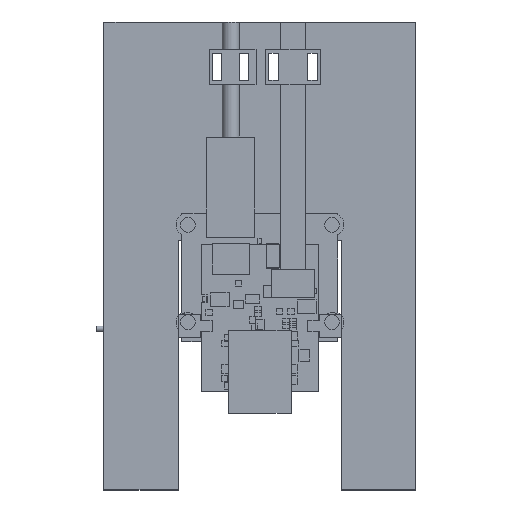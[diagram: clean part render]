
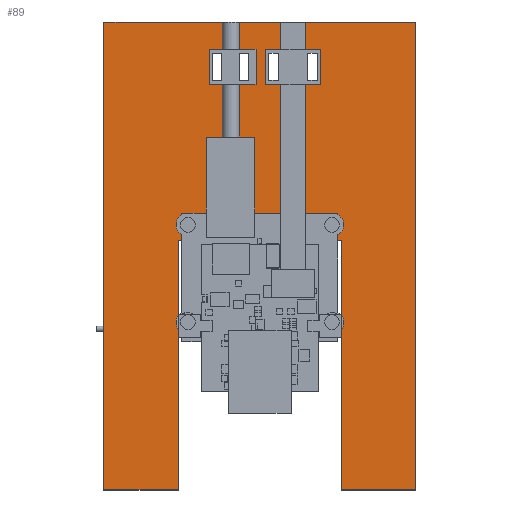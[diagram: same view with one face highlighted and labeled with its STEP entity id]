
A CAD part, top view. The second image highlights one B-rep face of the part: STEP entity #89.
In plain terms, the highlighted planar face has unit normal (0, 0, 1).
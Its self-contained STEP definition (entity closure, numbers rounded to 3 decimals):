
#21 = EDGE_CURVE('',#22,#24,#26,.T.);
#22 = VERTEX_POINT('',#23);
#23 = CARTESIAN_POINT('',(0.,0.,3.));
#24 = VERTEX_POINT('',#25);
#25 = CARTESIAN_POINT('',(0.,120.,3.));
#26 = LINE('',#27,#28);
#27 = CARTESIAN_POINT('',(0.,0.,3.));
#28 = VECTOR('',#29,1.);
#29 = DIRECTION('',(0.,1.,0.));
#89 = ADVANCED_FACE('',(#90,#147,#158,#169,#267),#365,.T.);
#90 = FACE_BOUND('',#91,.T.);
#91 = EDGE_LOOP('',(#92,#100,#101,#109,#117,#125,#133,#141));
#92 = ORIENTED_EDGE('',*,*,#93,.F.);
#93 = EDGE_CURVE('',#24,#94,#96,.T.);
#94 = VERTEX_POINT('',#95);
#95 = CARTESIAN_POINT('',(80.,120.,3.));
#96 = LINE('',#97,#98);
#97 = CARTESIAN_POINT('',(0.,120.,3.));
#98 = VECTOR('',#99,1.);
#99 = DIRECTION('',(1.,0.,0.));
#100 = ORIENTED_EDGE('',*,*,#21,.F.);
#101 = ORIENTED_EDGE('',*,*,#102,.T.);
#102 = EDGE_CURVE('',#22,#103,#105,.T.);
#103 = VERTEX_POINT('',#104);
#104 = CARTESIAN_POINT('',(19.,0.,3.));
#105 = LINE('',#106,#107);
#106 = CARTESIAN_POINT('',(0.,0.,3.));
#107 = VECTOR('',#108,1.);
#108 = DIRECTION('',(1.,0.,0.));
#109 = ORIENTED_EDGE('',*,*,#110,.T.);
#110 = EDGE_CURVE('',#103,#111,#113,.T.);
#111 = VERTEX_POINT('',#112);
#112 = CARTESIAN_POINT('',(19.,64.,3.));
#113 = LINE('',#114,#115);
#114 = CARTESIAN_POINT('',(19.,0.,3.));
#115 = VECTOR('',#116,1.);
#116 = DIRECTION('',(0.,1.,0.));
#117 = ORIENTED_EDGE('',*,*,#118,.F.);
#118 = EDGE_CURVE('',#119,#111,#121,.T.);
#119 = VERTEX_POINT('',#120);
#120 = CARTESIAN_POINT('',(61.,64.,3.));
#121 = LINE('',#122,#123);
#122 = CARTESIAN_POINT('',(9.5,64.,3.));
#123 = VECTOR('',#124,1.);
#124 = DIRECTION('',(-1.,0.,0.));
#125 = ORIENTED_EDGE('',*,*,#126,.F.);
#126 = EDGE_CURVE('',#127,#119,#129,.T.);
#127 = VERTEX_POINT('',#128);
#128 = CARTESIAN_POINT('',(61.,0.,3.));
#129 = LINE('',#130,#131);
#130 = CARTESIAN_POINT('',(61.,0.,3.));
#131 = VECTOR('',#132,1.);
#132 = DIRECTION('',(0.,1.,0.));
#133 = ORIENTED_EDGE('',*,*,#134,.T.);
#134 = EDGE_CURVE('',#127,#135,#137,.T.);
#135 = VERTEX_POINT('',#136);
#136 = CARTESIAN_POINT('',(80.,0.,3.));
#137 = LINE('',#138,#139);
#138 = CARTESIAN_POINT('',(0.,0.,3.));
#139 = VECTOR('',#140,1.);
#140 = DIRECTION('',(1.,0.,0.));
#141 = ORIENTED_EDGE('',*,*,#142,.T.);
#142 = EDGE_CURVE('',#135,#94,#143,.T.);
#143 = LINE('',#144,#145);
#144 = CARTESIAN_POINT('',(80.,0.,3.));
#145 = VECTOR('',#146,1.);
#146 = DIRECTION('',(0.,1.,0.));
#147 = FACE_BOUND('',#148,.T.);
#148 = EDGE_LOOP('',(#149));
#149 = ORIENTED_EDGE('',*,*,#150,.F.);
#150 = EDGE_CURVE('',#151,#151,#153,.T.);
#151 = VERTEX_POINT('',#152);
#152 = CARTESIAN_POINT('',(22.65,68.,3.));
#153 = CIRCLE('',#154,1.15);
#154 = AXIS2_PLACEMENT_3D('',#155,#156,#157);
#155 = CARTESIAN_POINT('',(21.5,68.,3.));
#156 = DIRECTION('',(0.,0.,1.));
#157 = DIRECTION('',(1.,0.,0.));
#158 = FACE_BOUND('',#159,.T.);
#159 = EDGE_LOOP('',(#160));
#160 = ORIENTED_EDGE('',*,*,#161,.F.);
#161 = EDGE_CURVE('',#162,#162,#164,.T.);
#162 = VERTEX_POINT('',#163);
#163 = CARTESIAN_POINT('',(59.65,68.,3.));
#164 = CIRCLE('',#165,1.15);
#165 = AXIS2_PLACEMENT_3D('',#166,#167,#168);
#166 = CARTESIAN_POINT('',(58.5,68.,3.));
#167 = DIRECTION('',(0.,0.,1.));
#168 = DIRECTION('',(1.,0.,0.));
#169 = FACE_BOUND('',#170,.T.);
#170 = EDGE_LOOP('',(#171,#181,#189,#197,#205,#213,#221,#229,#237,#245,
    #253,#261));
#171 = ORIENTED_EDGE('',*,*,#172,.T.);
#172 = EDGE_CURVE('',#173,#175,#177,.T.);
#173 = VERTEX_POINT('',#174);
#174 = CARTESIAN_POINT('',(30.2,104.,3.));
#175 = VERTEX_POINT('',#176);
#176 = CARTESIAN_POINT('',(30.2,105.,3.));
#177 = LINE('',#178,#179);
#178 = CARTESIAN_POINT('',(30.2,104.,3.));
#179 = VECTOR('',#180,1.);
#180 = DIRECTION('',(0.,1.,0.));
#181 = ORIENTED_EDGE('',*,*,#182,.T.);
#182 = EDGE_CURVE('',#175,#183,#185,.T.);
#183 = VERTEX_POINT('',#184);
#184 = CARTESIAN_POINT('',(27.8,105.,3.));
#185 = LINE('',#186,#187);
#186 = CARTESIAN_POINT('',(13.9,105.,3.));
#187 = VECTOR('',#188,1.);
#188 = DIRECTION('',(-1.,0.,0.));
#189 = ORIENTED_EDGE('',*,*,#190,.T.);
#190 = EDGE_CURVE('',#183,#191,#193,.T.);
#191 = VERTEX_POINT('',#192);
#192 = CARTESIAN_POINT('',(27.8,112.,3.));
#193 = LINE('',#194,#195);
#194 = CARTESIAN_POINT('',(27.8,52.5,3.));
#195 = VECTOR('',#196,1.);
#196 = DIRECTION('',(0.,1.,0.));
#197 = ORIENTED_EDGE('',*,*,#198,.F.);
#198 = EDGE_CURVE('',#199,#191,#201,.T.);
#199 = VERTEX_POINT('',#200);
#200 = CARTESIAN_POINT('',(30.2,112.,3.));
#201 = LINE('',#202,#203);
#202 = CARTESIAN_POINT('',(13.9,112.,3.));
#203 = VECTOR('',#204,1.);
#204 = DIRECTION('',(-1.,0.,0.));
#205 = ORIENTED_EDGE('',*,*,#206,.T.);
#206 = EDGE_CURVE('',#199,#207,#209,.T.);
#207 = VERTEX_POINT('',#208);
#208 = CARTESIAN_POINT('',(30.2,113.,3.));
#209 = LINE('',#210,#211);
#210 = CARTESIAN_POINT('',(30.2,104.,3.));
#211 = VECTOR('',#212,1.);
#212 = DIRECTION('',(0.,1.,0.));
#213 = ORIENTED_EDGE('',*,*,#214,.T.);
#214 = EDGE_CURVE('',#207,#215,#217,.T.);
#215 = VERTEX_POINT('',#216);
#216 = CARTESIAN_POINT('',(34.8,113.,3.));
#217 = LINE('',#218,#219);
#218 = CARTESIAN_POINT('',(30.2,113.,3.));
#219 = VECTOR('',#220,1.);
#220 = DIRECTION('',(1.,0.,0.));
#221 = ORIENTED_EDGE('',*,*,#222,.F.);
#222 = EDGE_CURVE('',#223,#215,#225,.T.);
#223 = VERTEX_POINT('',#224);
#224 = CARTESIAN_POINT('',(34.8,112.,3.));
#225 = LINE('',#226,#227);
#226 = CARTESIAN_POINT('',(34.8,104.,3.));
#227 = VECTOR('',#228,1.);
#228 = DIRECTION('',(0.,1.,0.));
#229 = ORIENTED_EDGE('',*,*,#230,.F.);
#230 = EDGE_CURVE('',#231,#223,#233,.T.);
#231 = VERTEX_POINT('',#232);
#232 = CARTESIAN_POINT('',(37.2,112.,3.));
#233 = LINE('',#234,#235);
#234 = CARTESIAN_POINT('',(17.4,112.,3.));
#235 = VECTOR('',#236,1.);
#236 = DIRECTION('',(-1.,0.,0.));
#237 = ORIENTED_EDGE('',*,*,#238,.F.);
#238 = EDGE_CURVE('',#239,#231,#241,.T.);
#239 = VERTEX_POINT('',#240);
#240 = CARTESIAN_POINT('',(37.2,105.,3.));
#241 = LINE('',#242,#243);
#242 = CARTESIAN_POINT('',(37.2,52.5,3.));
#243 = VECTOR('',#244,1.);
#244 = DIRECTION('',(0.,1.,0.));
#245 = ORIENTED_EDGE('',*,*,#246,.T.);
#246 = EDGE_CURVE('',#239,#247,#249,.T.);
#247 = VERTEX_POINT('',#248);
#248 = CARTESIAN_POINT('',(34.8,105.,3.));
#249 = LINE('',#250,#251);
#250 = CARTESIAN_POINT('',(17.4,105.,3.));
#251 = VECTOR('',#252,1.);
#252 = DIRECTION('',(-1.,0.,0.));
#253 = ORIENTED_EDGE('',*,*,#254,.F.);
#254 = EDGE_CURVE('',#255,#247,#257,.T.);
#255 = VERTEX_POINT('',#256);
#256 = CARTESIAN_POINT('',(34.8,104.,3.));
#257 = LINE('',#258,#259);
#258 = CARTESIAN_POINT('',(34.8,104.,3.));
#259 = VECTOR('',#260,1.);
#260 = DIRECTION('',(0.,1.,0.));
#261 = ORIENTED_EDGE('',*,*,#262,.F.);
#262 = EDGE_CURVE('',#173,#255,#263,.T.);
#263 = LINE('',#264,#265);
#264 = CARTESIAN_POINT('',(30.2,104.,3.));
#265 = VECTOR('',#266,1.);
#266 = DIRECTION('',(1.,0.,0.));
#267 = FACE_BOUND('',#268,.T.);
#268 = EDGE_LOOP('',(#269,#279,#287,#295,#303,#311,#319,#327,#335,#343,
    #351,#359));
#269 = ORIENTED_EDGE('',*,*,#270,.T.);
#270 = EDGE_CURVE('',#271,#273,#275,.T.);
#271 = VERTEX_POINT('',#272);
#272 = CARTESIAN_POINT('',(44.7,104.,3.));
#273 = VERTEX_POINT('',#274);
#274 = CARTESIAN_POINT('',(44.7,105.,3.));
#275 = LINE('',#276,#277);
#276 = CARTESIAN_POINT('',(44.7,104.,3.));
#277 = VECTOR('',#278,1.);
#278 = DIRECTION('',(0.,1.,0.));
#279 = ORIENTED_EDGE('',*,*,#280,.T.);
#280 = EDGE_CURVE('',#273,#281,#283,.T.);
#281 = VERTEX_POINT('',#282);
#282 = CARTESIAN_POINT('',(42.3,105.,3.));
#283 = LINE('',#284,#285);
#284 = CARTESIAN_POINT('',(21.15,105.,3.));
#285 = VECTOR('',#286,1.);
#286 = DIRECTION('',(-1.,0.,0.));
#287 = ORIENTED_EDGE('',*,*,#288,.T.);
#288 = EDGE_CURVE('',#281,#289,#291,.T.);
#289 = VERTEX_POINT('',#290);
#290 = CARTESIAN_POINT('',(42.3,112.,3.));
#291 = LINE('',#292,#293);
#292 = CARTESIAN_POINT('',(42.3,52.5,3.));
#293 = VECTOR('',#294,1.);
#294 = DIRECTION('',(0.,1.,0.));
#295 = ORIENTED_EDGE('',*,*,#296,.F.);
#296 = EDGE_CURVE('',#297,#289,#299,.T.);
#297 = VERTEX_POINT('',#298);
#298 = CARTESIAN_POINT('',(44.7,112.,3.));
#299 = LINE('',#300,#301);
#300 = CARTESIAN_POINT('',(21.15,112.,3.));
#301 = VECTOR('',#302,1.);
#302 = DIRECTION('',(-1.,0.,0.));
#303 = ORIENTED_EDGE('',*,*,#304,.T.);
#304 = EDGE_CURVE('',#297,#305,#307,.T.);
#305 = VERTEX_POINT('',#306);
#306 = CARTESIAN_POINT('',(44.7,113.,3.));
#307 = LINE('',#308,#309);
#308 = CARTESIAN_POINT('',(44.7,104.,3.));
#309 = VECTOR('',#310,1.);
#310 = DIRECTION('',(0.,1.,0.));
#311 = ORIENTED_EDGE('',*,*,#312,.T.);
#312 = EDGE_CURVE('',#305,#313,#315,.T.);
#313 = VERTEX_POINT('',#314);
#314 = CARTESIAN_POINT('',(52.3,113.,3.));
#315 = LINE('',#316,#317);
#316 = CARTESIAN_POINT('',(44.7,113.,3.));
#317 = VECTOR('',#318,1.);
#318 = DIRECTION('',(1.,0.,0.));
#319 = ORIENTED_EDGE('',*,*,#320,.F.);
#320 = EDGE_CURVE('',#321,#313,#323,.T.);
#321 = VERTEX_POINT('',#322);
#322 = CARTESIAN_POINT('',(52.3,112.,3.));
#323 = LINE('',#324,#325);
#324 = CARTESIAN_POINT('',(52.3,104.,3.));
#325 = VECTOR('',#326,1.);
#326 = DIRECTION('',(0.,1.,0.));
#327 = ORIENTED_EDGE('',*,*,#328,.F.);
#328 = EDGE_CURVE('',#329,#321,#331,.T.);
#329 = VERTEX_POINT('',#330);
#330 = CARTESIAN_POINT('',(54.7,112.,3.));
#331 = LINE('',#332,#333);
#332 = CARTESIAN_POINT('',(26.15,112.,3.));
#333 = VECTOR('',#334,1.);
#334 = DIRECTION('',(-1.,0.,0.));
#335 = ORIENTED_EDGE('',*,*,#336,.F.);
#336 = EDGE_CURVE('',#337,#329,#339,.T.);
#337 = VERTEX_POINT('',#338);
#338 = CARTESIAN_POINT('',(54.7,105.,3.));
#339 = LINE('',#340,#341);
#340 = CARTESIAN_POINT('',(54.7,52.5,3.));
#341 = VECTOR('',#342,1.);
#342 = DIRECTION('',(0.,1.,0.));
#343 = ORIENTED_EDGE('',*,*,#344,.T.);
#344 = EDGE_CURVE('',#337,#345,#347,.T.);
#345 = VERTEX_POINT('',#346);
#346 = CARTESIAN_POINT('',(52.3,105.,3.));
#347 = LINE('',#348,#349);
#348 = CARTESIAN_POINT('',(26.15,105.,3.));
#349 = VECTOR('',#350,1.);
#350 = DIRECTION('',(-1.,0.,0.));
#351 = ORIENTED_EDGE('',*,*,#352,.F.);
#352 = EDGE_CURVE('',#353,#345,#355,.T.);
#353 = VERTEX_POINT('',#354);
#354 = CARTESIAN_POINT('',(52.3,104.,3.));
#355 = LINE('',#356,#357);
#356 = CARTESIAN_POINT('',(52.3,104.,3.));
#357 = VECTOR('',#358,1.);
#358 = DIRECTION('',(0.,1.,0.));
#359 = ORIENTED_EDGE('',*,*,#360,.F.);
#360 = EDGE_CURVE('',#271,#353,#361,.T.);
#361 = LINE('',#362,#363);
#362 = CARTESIAN_POINT('',(44.7,104.,3.));
#363 = VECTOR('',#364,1.);
#364 = DIRECTION('',(1.,0.,0.));
#365 = PLANE('',#366);
#366 = AXIS2_PLACEMENT_3D('',#367,#368,#369);
#367 = CARTESIAN_POINT('',(0.,0.,3.));
#368 = DIRECTION('',(0.,0.,1.));
#369 = DIRECTION('',(1.,0.,0.));
